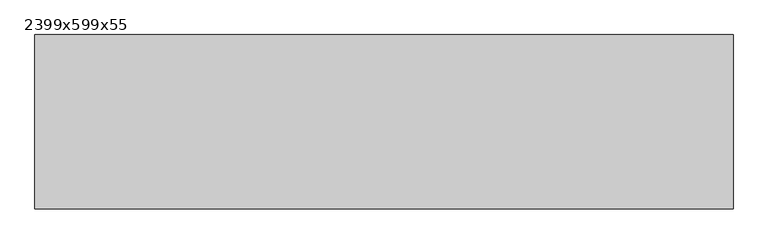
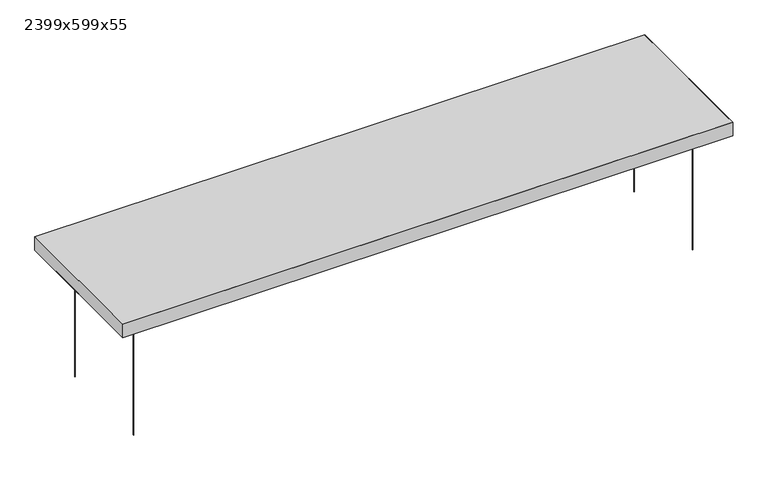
"""IFC4 building model written with IfcOpenShell, lengths in millimetres: proxy geometry, Texaa_Plafond respirant_Strato_Panneaux absorbant : 2399x599x55."""

from ifc_helpers import new_model, si_unit, point, frame, frame_2d, origin, origin_with_axes, place, context, project, spatial, polyline, circle_curve, trimmed, segment, composite_curve, outline, extrude, faceted_brep, source, transform, mapped, element, save


def proxy_2399x599x55_9aabfa6b(model_context):
    return source(origin(), model_context, "Body", "SolidModel", [
        extrude(outline(composite_curve([segment(trimmed(circle_curve(frame_2d((-1099.5, -199.5)), 0.75), [point((-1100.25, -199.5))], [point((-1098.75, -199.5))], False, "CARTESIAN"), True, "CONTINUOUS"), segment(trimmed(circle_curve(frame_2d((-1099.5, -199.5)), 0.75), [point((-1098.75, -199.5))], [point((-1100.25, -199.5))], False, "CARTESIAN"), True, "CONTINUOUS")], self_intersect=False)), origin_with_axes(), (0.0, 0.0, 1.0), 500.0),
        extrude(outline(composite_curve([segment(trimmed(circle_curve(frame_2d((1099.5, -199.5)), 0.75), [point((1098.75, -199.5))], [point((1100.25, -199.5))], False, "CARTESIAN"), True, "CONTINUOUS"), segment(trimmed(circle_curve(frame_2d((1099.5, -199.5)), 0.75), [point((1100.25, -199.5))], [point((1098.75, -199.5))], False, "CARTESIAN"), True, "CONTINUOUS")], self_intersect=False)), origin_with_axes(), (0.0, 0.0, 1.0), 500.0),
        extrude(outline(composite_curve([segment(trimmed(circle_curve(frame_2d((1099.5, 199.5)), 0.75), [point((1098.75, 199.5))], [point((1100.25, 199.5))], False, "CARTESIAN"), True, "CONTINUOUS"), segment(trimmed(circle_curve(frame_2d((1099.5, 199.5)), 0.75), [point((1100.25, 199.5))], [point((1098.75, 199.5))], False, "CARTESIAN"), True, "CONTINUOUS")], self_intersect=False)), origin_with_axes(), (0.0, 0.0, 1.0), 500.0),
        extrude(outline(composite_curve([segment(trimmed(circle_curve(frame_2d((-1099.5, 199.5)), 0.75), [point((-1100.25, 199.5))], [point((-1098.75, 199.5))], False, "CARTESIAN"), True, "CONTINUOUS"), segment(trimmed(circle_curve(frame_2d((-1099.5, 199.5)), 0.75), [point((-1098.75, 199.5))], [point((-1100.25, 199.5))], False, "CARTESIAN"), True, "CONTINUOUS")], self_intersect=False)), origin_with_axes(), (0.0, 0.0, 1.0), 500.0),
        extrude(outline(polyline([(-1198.5, -298.5), (-1198.5, 298.5), (1198.5, 298.5), (1198.5, -298.5), (-1198.5, -298.5)])), frame((0.0, 0.0, 501.0), z_axis=(0.0, 0.0, 1.0), x_axis=(1.0, 0.0, 0.0)), (0.0, 0.0, 1.0), 53.0),
        faceted_brep([(-1199.5, -299.5, 555.0), (1199.5, -299.5, 555.0), (1199.5, 299.5, 555.0), (-1199.5, 299.5, 555.0), (-1199.5, -299.5, 500.0), (-1199.5, 299.5, 500.0), (1199.5, 299.5, 500.0), (1199.5, -299.5, 500.0), (-1149.5, 249.5, 500.0), (-1149.5, -249.5, 500.0), (1149.5, -249.5, 500.0), (1149.5, 249.5, 500.0), (1149.5, 249.5, 501.0), (-1149.5, 249.5, 501.0), (1149.5, -249.5, 501.0), (-1149.5, -249.5, 501.0), (-1198.5, -298.5, 554.0), (-1198.5, 298.5, 554.0), (1198.5, 298.5, 554.0), (1198.5, -298.5, 554.0), (-1198.5, -298.5, 501.0), (1198.5, -298.5, 501.0), (1198.5, 298.5, 501.0), (-1198.5, 298.5, 501.0)], [[[0, 1, 2, 3]], [[4, 5, 6, 7], [8, 9, 10, 11]], [[3, 5, 4, 0]], [[2, 6, 5, 3]], [[1, 7, 6, 2]], [[0, 4, 7, 1]], [[8, 11, 12, 13]], [[11, 10, 14, 12]], [[10, 9, 15, 14]], [[13, 15, 9, 8]], [[16, 17, 18, 19]], [[20, 21, 22, 23], [12, 14, 15, 13]], [[16, 20, 23, 17]], [[17, 23, 22, 18]], [[18, 22, 21, 19]], [[19, 21, 20, 16]]]),
    ])


if __name__ == "__main__":
    model = new_model("IFC4")
    model_context = context("Model", 3, world=origin())
    ifc_project = project(units=[si_unit("LENGTHUNIT", "METRE", prefix="MILLI")], contexts=[model_context])
    site = spatial("IfcSite", under=ifc_project)
    building = spatial("IfcBuilding", under=site)
    placement = place(None, origin())
    proxy_2399x599x55_shape = proxy_2399x599x55_9aabfa6b(model_context)
    element("IfcBuildingElementProxy", 1, Name="Texaa_Plafond respirant_Strato_Panneaux absorbant : 2399x599x55", ObjectType="Texaa_Plafond respirant_Strato_Panneaux absorbant : 2399x599x55", at=placement, inside=building, context=model_context, shape_type="MappedRepresentation", body=[
        mapped(proxy_2399x599x55_shape, transform((0.0, 0.0, 0.0), x_axis=(1.0, 0.0, 0.0), y_axis=(0.0, 1.0, 0.0), z_axis=(0.0, 0.0, 1.0))),
    ])
    save(model, "model.ifc")
